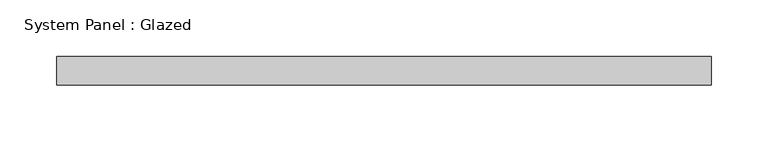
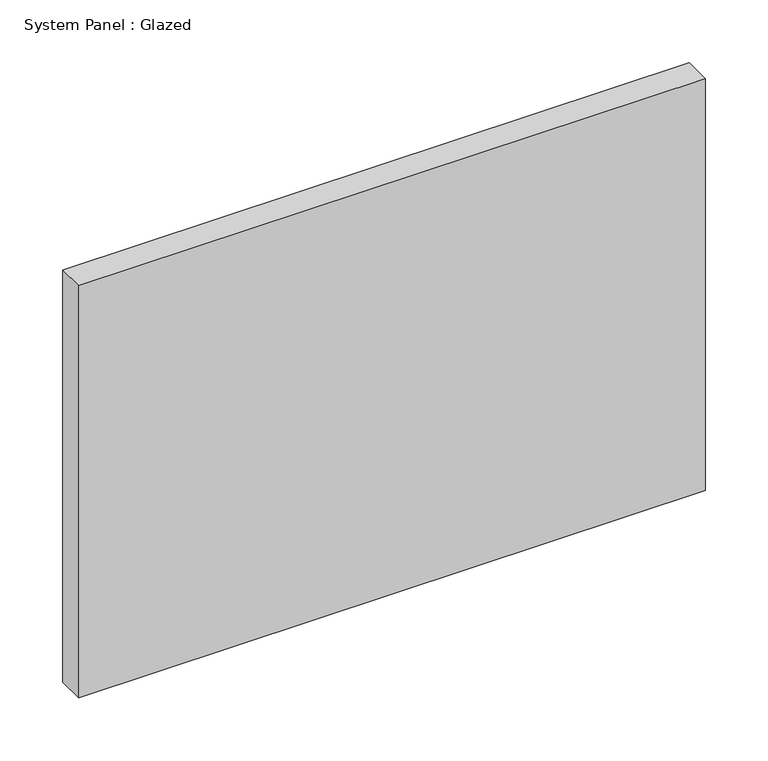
"""IFC4 building model written with IfcOpenShell, lengths in millimetres: plate geometry, System Panel : Glazed."""

from ifc_helpers import new_model, si_unit, origin, origin_with_axes, place, context, project, spatial, polyline, outline, extrude, source, transform, mapped, element, save


def system_panel_glazed_f545c6ae(model_context):
    return source(origin(), model_context, "Body", "SweptSolid", [
        extrude(outline(polyline([(287.5000001, 24.5), (-287.5000001, 24.5), (-287.5000001, 49.5), (287.5000001, 49.5), (287.5000001, 24.5)])), origin_with_axes(), (0.0, 0.0, 1.0), 400.0),
    ])


if __name__ == "__main__":
    model = new_model("IFC4")
    model_context = context("Model", 3, world=origin())
    ifc_project = project(units=[si_unit("LENGTHUNIT", "METRE", prefix="MILLI")], contexts=[model_context])
    site = spatial("IfcSite", under=ifc_project)
    building = spatial("IfcBuilding", under=site)
    placement = place(None, origin())
    system_panel_glazed_shape = system_panel_glazed_f545c6ae(model_context)
    element("IfcPlate", 1, ObjectType="System Panel : Glazed", at=placement, inside=building, context=model_context, shape_type="MappedRepresentation", body=[
        mapped(system_panel_glazed_shape, transform((0.0, 0.0, 0.0), x_axis=(1.0, 0.0, 0.0), y_axis=(0.0, 1.0, 0.0), z_axis=(0.0, 0.0, 1.0))),
    ])
    save(model, "model.ifc")
